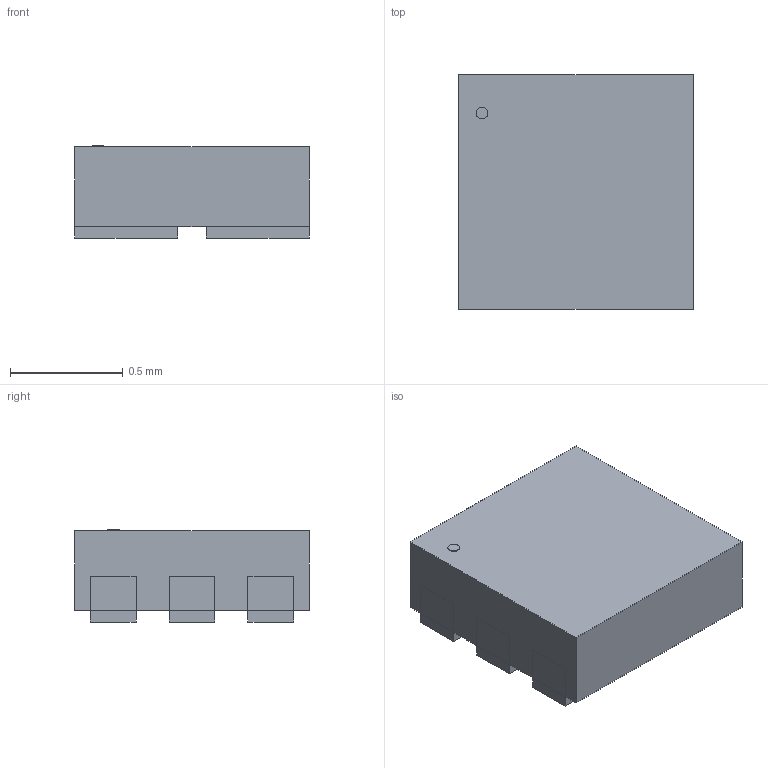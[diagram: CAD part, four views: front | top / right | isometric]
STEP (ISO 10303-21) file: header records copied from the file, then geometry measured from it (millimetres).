
FILE_DESCRIPTION(('STEP AP214'),'1');
FILE_NAME('X2-DFN1010-6_DIO','2026-03-19T06:17:16',(''),(''),'','','');
FILE_SCHEMA(('AUTOMOTIVE_DESIGN'));
Length unit declared in the file: millimetre
Products named in the file (1): product
Bounding box: 1.04 x 1.04 x 0.41 mm (x, y, z)
Volume: 0.4 mm3; surface area: 5.6 mm2
Topology: 8 solids, 8 shells, 57 faces, 111 edges, 70 vertices
Faces by surface type: plane 56, cylinder 1
Full cylindrical faces by diameter (mm): 0.052 x1
Entity records: 1609 total; most frequent: ORIENTED_EDGE 244, DIRECTION 242, CARTESIAN_POINT 143, EDGE_CURVE 122, LINE 120, VECTOR 120, VERTEX_POINT 82, AXIS2_PLACEMENT_3D 61
